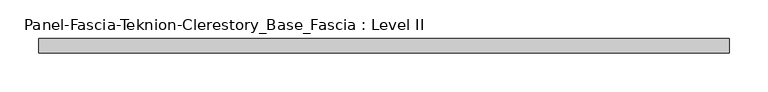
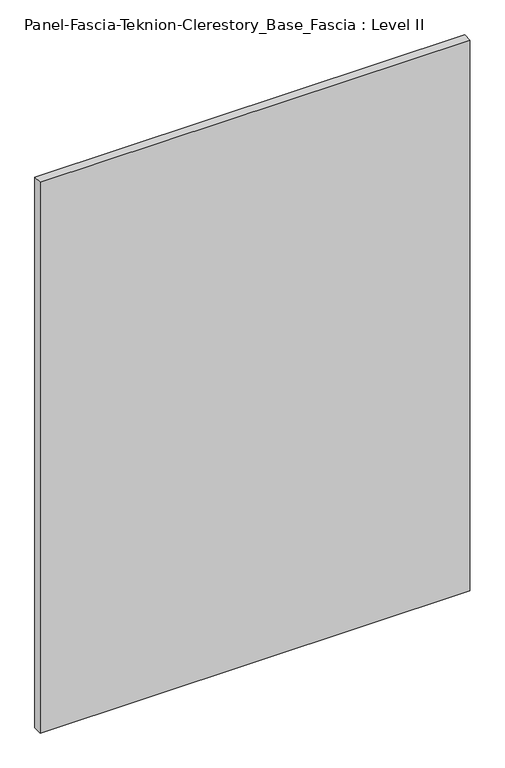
"""IFC4 building model written with IfcOpenShell, lengths in millimetres: proxy geometry, Panel-Fascia-Teknion-Clerestory_Base_Fascia : Level II."""

from ifc_helpers import new_model, si_unit, frame, origin, place, context, project, spatial, polyline, outline, extrude, source, transform, mapped, element, save


def panel_fascia_teknion_clerestory_base_fascia_level_ii_c53b4d47(model_context):
    return source(origin(), model_context, "Body", "SweptSolid", [
        extrude(outline(polyline([(447.6198344, 9.525), (447.6198344, -9.525), (-447.6198344, -9.525), (-447.6198344, 9.525), (447.6198344, 9.525)])), frame((0.0, 0.0, 3.175), z_axis=(0.0, 0.0, 1.0), x_axis=(1.0, 0.0, 0.0)), (0.0, 0.0, 1.0), 1212.85),
    ])


if __name__ == "__main__":
    model = new_model("IFC4")
    model_context = context("Model", 3, world=origin())
    ifc_project = project(units=[si_unit("LENGTHUNIT", "METRE", prefix="MILLI")], contexts=[model_context])
    site = spatial("IfcSite", under=ifc_project)
    building = spatial("IfcBuilding", under=site)
    placement = place(None, origin())
    panel_fascia_teknion_clerestory_base_fascia_level_ii_shape = panel_fascia_teknion_clerestory_base_fascia_level_ii_c53b4d47(model_context)
    element("IfcBuildingElementProxy", 1, Name="Panel-Fascia-Teknion-Clerestory_Base_Fascia : Level II", ObjectType="Panel-Fascia-Teknion-Clerestory_Base_Fascia : Level II", at=placement, inside=building, context=model_context, shape_type="MappedRepresentation", body=[
        mapped(panel_fascia_teknion_clerestory_base_fascia_level_ii_shape, transform((0.0, 0.0, 0.0), x_axis=(1.0, 0.0, 0.0), y_axis=(0.0, 1.0, 0.0), z_axis=(0.0, 0.0, 1.0))),
    ])
    save(model, "model.ifc")
